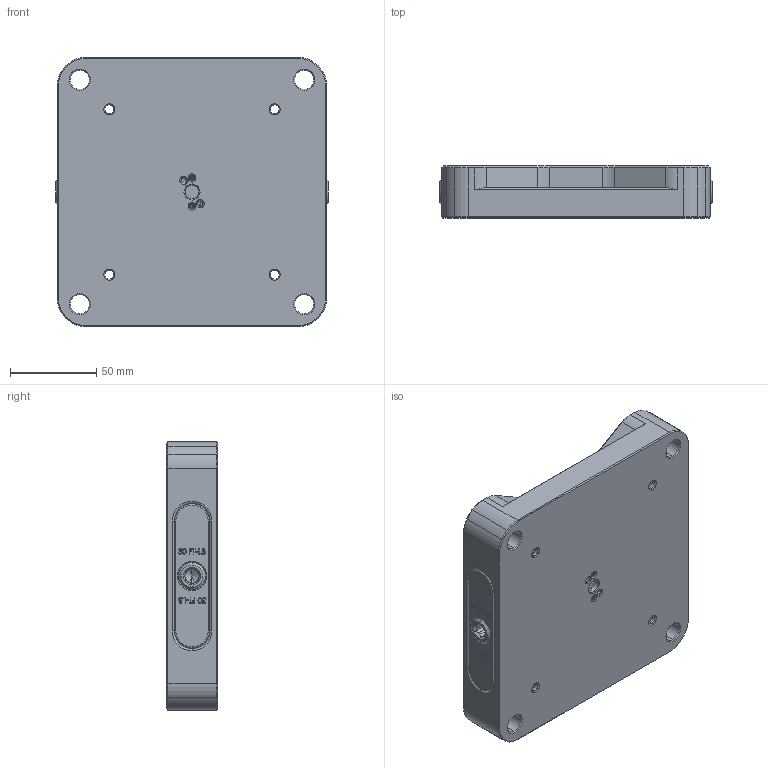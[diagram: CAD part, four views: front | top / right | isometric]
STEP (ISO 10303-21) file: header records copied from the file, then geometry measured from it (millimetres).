
FILE_DESCRIPTION (( 'STEP AP214' ), '1' );
FILE_NAME ('RL96A-6790.STEP', '2019-07-29T18:11:41', ( '' ), ( '' ), 'SwSTEP 2.0', 'SolidWorks 2018', '' );
FILE_SCHEMA (( 'AUTOMOTIVE_DESIGN' ));
Length unit declared in the file: millimetre
Products named in the file (9): RL96-ASSY; SB54_FINISHED PART; 27X20.DB; RL96-3; 033.OR in Shape of Truck; RL96-2R; RL96-2L; RL96-16790A; RL96A-6790
Assembly tree (13 placements, depth 3):
  RL96A-6790
    RL96-16790A
    RL96-ASSY
      RL96-2L
      RL96-2R
      033.OR in Shape of Truck  x2
      RL96-3
      27X20.DB  x4
      SB54_FINISHED PART  x2
Bounding box: 158 x 30 x 156 mm (x, y, z)
Volume: 592125.4 mm3; surface area: 128826 mm2
Topology: 12 solids, 12 shells, 952 faces, 2330 edges, 1450 vertices
Faces by surface type: plane 423, cylinder 230, cone 154, bspline 97, torus 48
Entity records: 34780 total; most frequent: CARTESIAN_POINT 12099, ORIENTED_EDGE 4304, DIRECTION 4010, EDGE_CURVE 2152, AXIS2_PLACEMENT_3D 1377, VERTEX_POINT 1352, VECTOR 1256, LINE 1256
